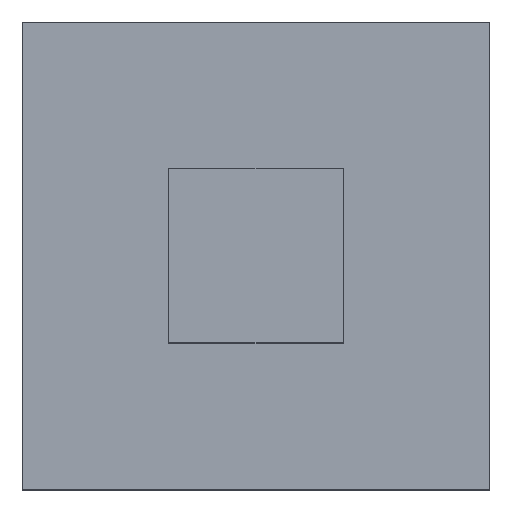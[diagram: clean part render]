
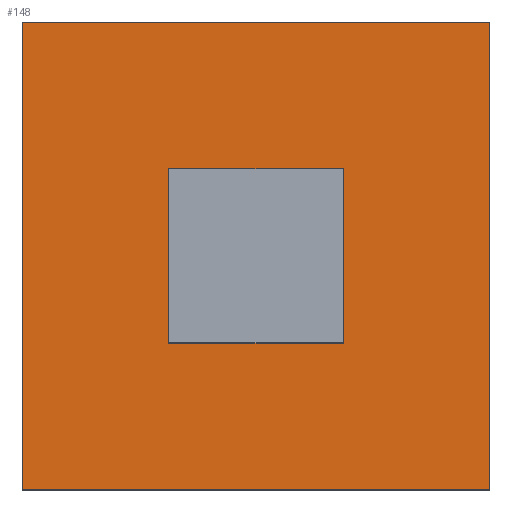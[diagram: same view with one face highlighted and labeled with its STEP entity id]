
A CAD part, top view. The second image highlights one B-rep face of the part: STEP entity #148.
In plain terms, the highlighted planar face has unit normal (0, 0, 1).
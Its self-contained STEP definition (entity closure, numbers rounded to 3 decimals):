
#9=CARTESIAN_POINT('',(-2.55,-2.55,1.1));
#10=VERTEX_POINT('',#9);
#11=CARTESIAN_POINT('',(2.55,-2.55,1.1));
#12=VERTEX_POINT('',#11);
#13=CARTESIAN_POINT('',(-2.55,2.55,1.1));
#14=VERTEX_POINT('',#13);
#15=CARTESIAN_POINT('',(2.55,2.55,1.1));
#16=VERTEX_POINT('',#15);
#17=DIRECTION('',(0.,1.,0.));
#18=VECTOR('',#17,5.1);
#19=CARTESIAN_POINT('',(-2.55,-2.55,1.1));
#20=LINE('',#19,#18);
#21=EDGE_CURVE('',#10,#14,#20,.T.);
#61=DIRECTION('',(0.,1.,0.));
#62=VECTOR('',#61,5.1);
#63=CARTESIAN_POINT('',(2.55,-2.55,1.1));
#64=LINE('',#63,#62);
#65=EDGE_CURVE('',#12,#16,#64,.T.);
#82=DIRECTION('',(1.,0.,0.));
#83=VECTOR('',#82,5.1);
#84=CARTESIAN_POINT('',(-2.55,-2.55,1.1));
#85=LINE('',#84,#83);
#86=EDGE_CURVE('',#10,#12,#85,.T.);
#104=DIRECTION('',(1.,0.,0.));
#105=VECTOR('',#104,5.1);
#106=CARTESIAN_POINT('',(-2.55,2.55,1.1));
#107=LINE('',#106,#105);
#108=EDGE_CURVE('',#14,#16,#107,.T.);
#137=ORIENTED_EDGE('',*,*,#86,.T.);
#138=ORIENTED_EDGE('',*,*,#65,.T.);
#139=ORIENTED_EDGE('',*,*,#108,.F.);
#140=ORIENTED_EDGE('',*,*,#21,.F.);
#141=EDGE_LOOP('',(#137,#138,#139,#140));
#142=FACE_OUTER_BOUND('',#141,.T.);
#143=CARTESIAN_POINT('',(-2.55,-2.55,1.1));
#144=DIRECTION('',(0.,0.,1.));
#145=DIRECTION('',(1.,0.,0.));
#146=AXIS2_PLACEMENT_3D('',#143,#144,#145);
#147=PLANE('',#146);
#148=ADVANCED_FACE('',(#142),#147,.T.);
